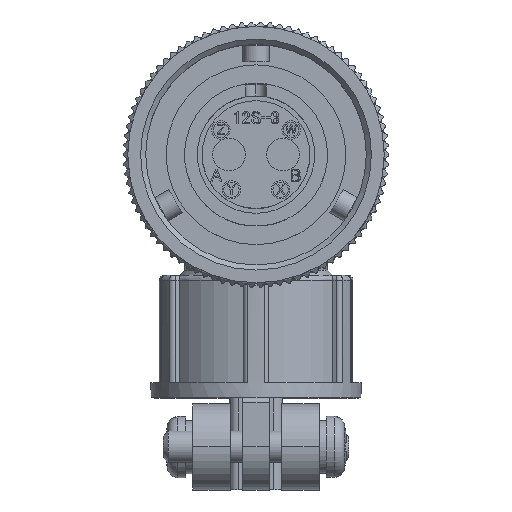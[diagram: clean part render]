
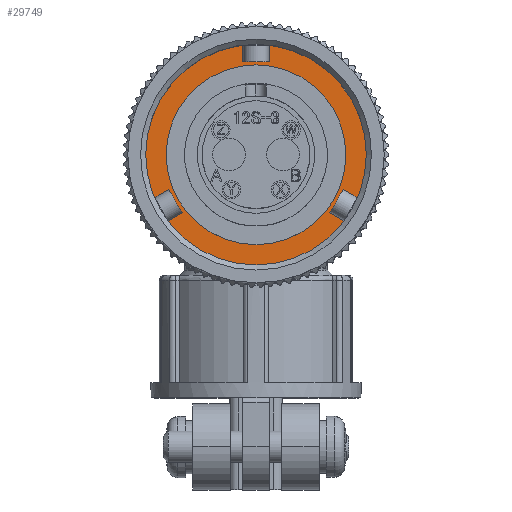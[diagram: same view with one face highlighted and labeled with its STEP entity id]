
A CAD part, top view. The second image highlights one B-rep face of the part: STEP entity #29749.
In plain terms, the highlighted planar face has unit normal (0, 0, 1).
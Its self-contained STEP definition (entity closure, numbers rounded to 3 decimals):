
#3 = AXIS2_PLACEMENT_3D ( 'NONE', #8670, #37589, #61833 ) ;
#206 = CIRCLE ( 'NONE', #39035, 8.55 ) ;
#6868 = ORIENTED_EDGE ( 'NONE', *, *, #21415, .T. ) ;
#6976 = VERTEX_POINT ( 'NONE', #56556 ) ;
#8205 = CARTESIAN_POINT ( 'NONE',  ( -10.8, 0., -15.49 ) ) ;
#8670 = CARTESIAN_POINT ( 'NONE',  ( 0., 10.7, -15.49 ) ) ;
#16724 = CARTESIAN_POINT ( 'NONE',  ( 0., 0., -15.49 ) ) ;
#21415 = EDGE_CURVE ( 'NONE', #32466, #32466, #46926, .T. ) ;
#23536 = PLANE ( 'NONE',  #3 ) ;
#25846 = FACE_BOUND ( 'NONE', #39954, .T. ) ;
#26346 = DIRECTION ( 'NONE',  ( 0., 0., -1. ) ) ;
#29749 = ADVANCED_FACE ( 'NONE', ( #25846, #41599 ), #23536, .F. ) ;
#30973 = EDGE_CURVE ( 'NONE', #6976, #6976, #206, .T. ) ;
#32466 = VERTEX_POINT ( 'NONE', #8205 ) ;
#35002 = DIRECTION ( 'NONE',  ( 0., 0., 1. ) ) ;
#37589 = DIRECTION ( 'NONE',  ( 0., 0., -1. ) ) ;
#39035 = AXIS2_PLACEMENT_3D ( 'NONE', #16724, #26346, #59841 ) ;
#39787 = CARTESIAN_POINT ( 'NONE',  ( 0., 0., -15.49 ) ) ;
#39954 = EDGE_LOOP ( 'NONE', ( #43507 ) ) ;
#41599 = FACE_OUTER_BOUND ( 'NONE', #43526, .T. ) ;
#43507 = ORIENTED_EDGE ( 'NONE', *, *, #30973, .T. ) ;
#43526 = EDGE_LOOP ( 'NONE', ( #6868 ) ) ;
#46926 = CIRCLE ( 'NONE', #59921, 10.8 ) ;
#49399 = DIRECTION ( 'NONE',  ( -1., 0., 0. ) ) ;
#56556 = CARTESIAN_POINT ( 'NONE',  ( -8.55, 0., -15.49 ) ) ;
#59841 = DIRECTION ( 'NONE',  ( -1., 0., 0. ) ) ;
#59921 = AXIS2_PLACEMENT_3D ( 'NONE', #39787, #35002, #49399 ) ;
#61833 = DIRECTION ( 'NONE',  ( -1., 0., 0. ) ) ;
